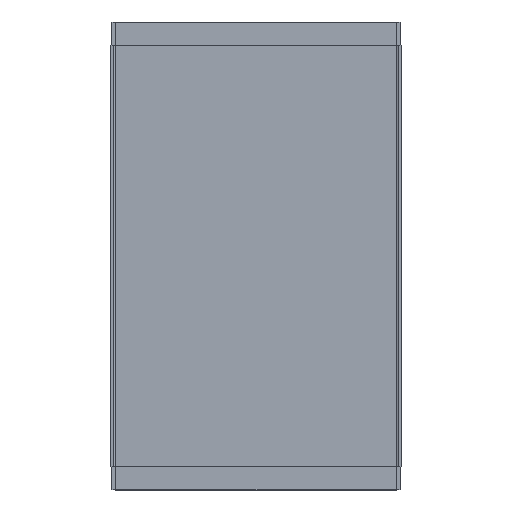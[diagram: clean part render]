
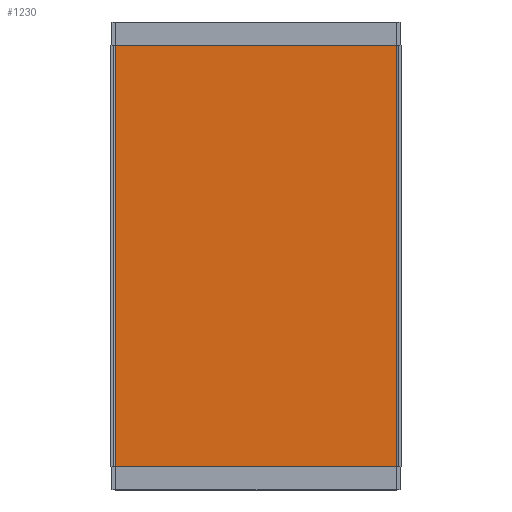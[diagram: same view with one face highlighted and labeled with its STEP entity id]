
A CAD part, top view. The second image highlights one B-rep face of the part: STEP entity #1230.
In plain terms, the highlighted planar face has unit normal (0, 0, 1).
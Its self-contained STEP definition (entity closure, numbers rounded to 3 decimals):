
#218 = VERTEX_POINT('',#219);
#219 = CARTESIAN_POINT('',(20.,380.,2.));
#309 = CYLINDRICAL_SURFACE('',#310,2.);
#310 = AXIS2_PLACEMENT_3D('',#311,#312,#313);
#311 = CARTESIAN_POINT('',(20.,400.,4.));
#312 = DIRECTION('',(0.,-1.,0.));
#313 = DIRECTION('',(-0.,-0.,-1.));
#549 = VERTEX_POINT('',#550);
#550 = CARTESIAN_POINT('',(20.,20.,2.));
#669 = PLANE('',#670);
#670 = AXIS2_PLACEMENT_3D('',#671,#672,#673);
#671 = CARTESIAN_POINT('',(16.,380.,2.));
#672 = DIRECTION('',(0.,0.,1.));
#673 = DIRECTION('',(1.,0.,0.));
#728 = EDGE_CURVE('',#218,#549,#729,.T.);
#729 = SURFACE_CURVE('',#730,(#734,#741),.PCURVE_S1.);
#730 = LINE('',#731,#732);
#731 = CARTESIAN_POINT('',(20.,400.,2.));
#732 = VECTOR('',#733,1.);
#733 = DIRECTION('',(0.,-1.,0.));
#734 = PCURVE('',#309,#735);
#735 = DEFINITIONAL_REPRESENTATION('',(#736),#740);
#736 = LINE('',#737,#738);
#737 = CARTESIAN_POINT('',(-0.,0.));
#738 = VECTOR('',#739,1.);
#739 = DIRECTION('',(-0.,1.));
#740 = ( GEOMETRIC_REPRESENTATION_CONTEXT(2) 
PARAMETRIC_REPRESENTATION_CONTEXT() REPRESENTATION_CONTEXT('2D SPACE',''
  ) );
#741 = PCURVE('',#742,#747);
#742 = PLANE('',#743);
#743 = AXIS2_PLACEMENT_3D('',#744,#745,#746);
#744 = CARTESIAN_POINT('',(16.,0.,2.));
#745 = DIRECTION('',(0.,0.,1.));
#746 = DIRECTION('',(1.,0.,0.));
#747 = DEFINITIONAL_REPRESENTATION('',(#748),#752);
#748 = LINE('',#749,#750);
#749 = CARTESIAN_POINT('',(4.,400.));
#750 = VECTOR('',#751,1.);
#751 = DIRECTION('',(0.,-1.));
#752 = ( GEOMETRIC_REPRESENTATION_CONTEXT(2) 
PARAMETRIC_REPRESENTATION_CONTEXT() REPRESENTATION_CONTEXT('2D SPACE',''
  ) );
#821 = PLANE('',#822);
#822 = AXIS2_PLACEMENT_3D('',#823,#824,#825);
#823 = CARTESIAN_POINT('',(16.,0.,2.));
#824 = DIRECTION('',(0.,0.,1.));
#825 = DIRECTION('',(1.,0.,0.));
#1186 = EDGE_CURVE('',#218,#1187,#1189,.T.);
#1187 = VERTEX_POINT('',#1188);
#1188 = CARTESIAN_POINT('',(260.,380.,2.));
#1189 = SURFACE_CURVE('',#1190,(#1194,#1201),.PCURVE_S1.);
#1190 = LINE('',#1191,#1192);
#1191 = CARTESIAN_POINT('',(16.,380.,2.));
#1192 = VECTOR('',#1193,1.);
#1193 = DIRECTION('',(1.,0.,0.));
#1194 = PCURVE('',#669,#1195);
#1195 = DEFINITIONAL_REPRESENTATION('',(#1196),#1200);
#1196 = LINE('',#1197,#1198);
#1197 = CARTESIAN_POINT('',(0.,0.));
#1198 = VECTOR('',#1199,1.);
#1199 = DIRECTION('',(1.,0.));
#1200 = ( GEOMETRIC_REPRESENTATION_CONTEXT(2) 
PARAMETRIC_REPRESENTATION_CONTEXT() REPRESENTATION_CONTEXT('2D SPACE',''
  ) );
#1201 = PCURVE('',#742,#1202);
#1202 = DEFINITIONAL_REPRESENTATION('',(#1203),#1207);
#1203 = LINE('',#1204,#1205);
#1204 = CARTESIAN_POINT('',(0.,380.));
#1205 = VECTOR('',#1206,1.);
#1206 = DIRECTION('',(1.,0.));
#1207 = ( GEOMETRIC_REPRESENTATION_CONTEXT(2) 
PARAMETRIC_REPRESENTATION_CONTEXT() REPRESENTATION_CONTEXT('2D SPACE',''
  ) );
#1230 = ADVANCED_FACE('',(#1231),#742,.T.);
#1231 = FACE_BOUND('',#1232,.T.);
#1232 = EDGE_LOOP('',(#1233,#1261,#1262,#1263));
#1233 = ORIENTED_EDGE('',*,*,#1234,.F.);
#1234 = EDGE_CURVE('',#1187,#1235,#1237,.T.);
#1235 = VERTEX_POINT('',#1236);
#1236 = CARTESIAN_POINT('',(260.,20.,2.));
#1237 = SURFACE_CURVE('',#1238,(#1242,#1249),.PCURVE_S1.);
#1238 = LINE('',#1239,#1240);
#1239 = CARTESIAN_POINT('',(260.,400.,2.));
#1240 = VECTOR('',#1241,1.);
#1241 = DIRECTION('',(0.,-1.,0.));
#1242 = PCURVE('',#742,#1243);
#1243 = DEFINITIONAL_REPRESENTATION('',(#1244),#1248);
#1244 = LINE('',#1245,#1246);
#1245 = CARTESIAN_POINT('',(244.,400.));
#1246 = VECTOR('',#1247,1.);
#1247 = DIRECTION('',(0.,-1.));
#1248 = ( GEOMETRIC_REPRESENTATION_CONTEXT(2) 
PARAMETRIC_REPRESENTATION_CONTEXT() REPRESENTATION_CONTEXT('2D SPACE',''
  ) );
#1249 = PCURVE('',#1250,#1255);
#1250 = CYLINDRICAL_SURFACE('',#1251,2.);
#1251 = AXIS2_PLACEMENT_3D('',#1252,#1253,#1254);
#1252 = CARTESIAN_POINT('',(260.,400.,4.));
#1253 = DIRECTION('',(0.,-1.,0.));
#1254 = DIRECTION('',(-0.,-0.,-1.));
#1255 = DEFINITIONAL_REPRESENTATION('',(#1256),#1260);
#1256 = LINE('',#1257,#1258);
#1257 = CARTESIAN_POINT('',(0.,0.));
#1258 = VECTOR('',#1259,1.);
#1259 = DIRECTION('',(0.,1.));
#1260 = ( GEOMETRIC_REPRESENTATION_CONTEXT(2) 
PARAMETRIC_REPRESENTATION_CONTEXT() REPRESENTATION_CONTEXT('2D SPACE',''
  ) );
#1261 = ORIENTED_EDGE('',*,*,#1186,.F.);
#1262 = ORIENTED_EDGE('',*,*,#728,.T.);
#1263 = ORIENTED_EDGE('',*,*,#1264,.T.);
#1264 = EDGE_CURVE('',#549,#1235,#1265,.T.);
#1265 = SURFACE_CURVE('',#1266,(#1270,#1277),.PCURVE_S1.);
#1266 = LINE('',#1267,#1268);
#1267 = CARTESIAN_POINT('',(16.,20.,2.));
#1268 = VECTOR('',#1269,1.);
#1269 = DIRECTION('',(1.,0.,0.));
#1270 = PCURVE('',#742,#1271);
#1271 = DEFINITIONAL_REPRESENTATION('',(#1272),#1276);
#1272 = LINE('',#1273,#1274);
#1273 = CARTESIAN_POINT('',(0.,20.));
#1274 = VECTOR('',#1275,1.);
#1275 = DIRECTION('',(1.,0.));
#1276 = ( GEOMETRIC_REPRESENTATION_CONTEXT(2) 
PARAMETRIC_REPRESENTATION_CONTEXT() REPRESENTATION_CONTEXT('2D SPACE',''
  ) );
#1277 = PCURVE('',#821,#1278);
#1278 = DEFINITIONAL_REPRESENTATION('',(#1279),#1283);
#1279 = LINE('',#1280,#1281);
#1280 = CARTESIAN_POINT('',(0.,20.));
#1281 = VECTOR('',#1282,1.);
#1282 = DIRECTION('',(1.,0.));
#1283 = ( GEOMETRIC_REPRESENTATION_CONTEXT(2) 
PARAMETRIC_REPRESENTATION_CONTEXT() REPRESENTATION_CONTEXT('2D SPACE',''
  ) );
